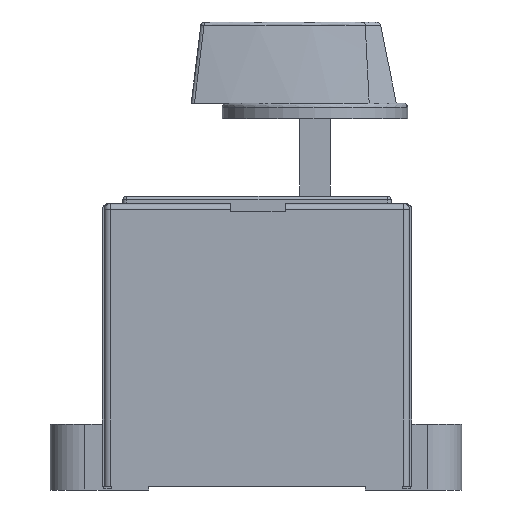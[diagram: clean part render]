
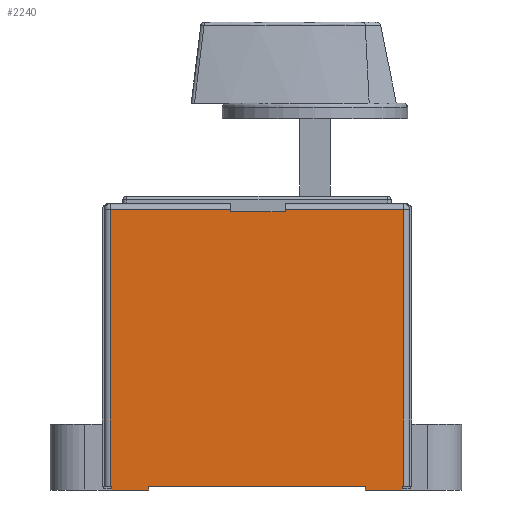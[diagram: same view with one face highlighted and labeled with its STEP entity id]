
A CAD part, left-side view. The second image highlights one B-rep face of the part: STEP entity #2240.
In plain terms, the highlighted planar face has unit normal (-1, 0, 0).
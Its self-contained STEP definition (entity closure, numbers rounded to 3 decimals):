
#252=PLANE('',#7554);
#691=LINE('',#10630,#1409);
#740=LINE('',#10747,#1458);
#742=LINE('',#10753,#1460);
#821=LINE('',#11102,#1539);
#838=LINE('',#11189,#1556);
#882=LINE('',#11303,#1600);
#887=LINE('',#11315,#1605);
#889=LINE('',#11318,#1607);
#895=LINE('',#11331,#1613);
#1063=LINE('',#11672,#1781);
#1069=LINE('',#11683,#1787);
#1070=LINE('',#11687,#1788);
#1071=LINE('',#11689,#1789);
#1072=LINE('',#11691,#1790);
#1073=LINE('',#11692,#1791);
#1074=LINE('',#11693,#1792);
#1409=VECTOR('',#8400,1.);
#1458=VECTOR('',#8485,1.);
#1460=VECTOR('',#8491,1.);
#1539=VECTOR('',#8808,1.);
#1556=VECTOR('',#8925,1.);
#1600=VECTOR('',#9043,1.);
#1605=VECTOR('',#9050,1.);
#1607=VECTOR('',#9054,1.);
#1613=VECTOR('',#9062,1.);
#1781=VECTOR('',#9360,1.);
#1787=VECTOR('',#9372,1.);
#1788=VECTOR('',#9377,1.);
#1789=VECTOR('',#9378,1.);
#1790=VECTOR('',#9379,1.);
#1791=VECTOR('',#9380,1.);
#1792=VECTOR('',#9381,1.);
#2240=ADVANCED_FACE('',(#2607),#252,.F.);
#2607=FACE_OUTER_BOUND('',#3034,.T.);
#3034=EDGE_LOOP('',(#4611,#4612,#4613,#4614,#4615,#4616,#4617,#4618,#4619,
#4620,#4621,#4622,#4623,#4624,#4625,#4626));
#4611=ORIENTED_EDGE('',*,*,#6630,.F.);
#4612=ORIENTED_EDGE('',*,*,#6374,.T.);
#4613=ORIENTED_EDGE('',*,*,#6176,.T.);
#4614=ORIENTED_EDGE('',*,*,#6120,.F.);
#4615=ORIENTED_EDGE('',*,*,#6179,.T.);
#4616=ORIENTED_EDGE('',*,*,#6331,.T.);
#4617=ORIENTED_EDGE('',*,*,#6632,.T.);
#4618=ORIENTED_EDGE('',*,*,#6633,.T.);
#4619=ORIENTED_EDGE('',*,*,#6634,.F.);
#4620=ORIENTED_EDGE('',*,*,#6430,.F.);
#4621=ORIENTED_EDGE('',*,*,#6435,.T.);
#4622=ORIENTED_EDGE('',*,*,#6635,.T.);
#4623=ORIENTED_EDGE('',*,*,#6443,.F.);
#4624=ORIENTED_EDGE('',*,*,#6437,.F.);
#4625=ORIENTED_EDGE('',*,*,#6624,.T.);
#4626=ORIENTED_EDGE('',*,*,#6636,.T.);
#5377=VERTEX_POINT('',#10629);
#5378=VERTEX_POINT('',#10631);
#5424=VERTEX_POINT('',#10748);
#5426=VERTEX_POINT('',#10754);
#5533=VERTEX_POINT('',#11097);
#5534=VERTEX_POINT('',#11101);
#5588=VERTEX_POINT('',#11304);
#5589=VERTEX_POINT('',#11305);
#5593=VERTEX_POINT('',#11314);
#5594=VERTEX_POINT('',#11319);
#5595=VERTEX_POINT('',#11320);
#5598=VERTEX_POINT('',#11328);
#5707=VERTEX_POINT('',#11671);
#5710=VERTEX_POINT('',#11684);
#5711=VERTEX_POINT('',#11688);
#5712=VERTEX_POINT('',#11690);
#6120=EDGE_CURVE('',#5377,#5378,#691,.T.);
#6176=EDGE_CURVE('',#5424,#5378,#740,.T.);
#6179=EDGE_CURVE('',#5377,#5426,#742,.T.);
#6331=EDGE_CURVE('',#5426,#5534,#821,.T.);
#6374=EDGE_CURVE('',#5533,#5424,#838,.T.);
#6430=EDGE_CURVE('',#5588,#5589,#882,.T.);
#6435=EDGE_CURVE('',#5588,#5593,#887,.T.);
#6437=EDGE_CURVE('',#5594,#5595,#889,.T.);
#6443=EDGE_CURVE('',#5595,#5598,#895,.T.);
#6624=EDGE_CURVE('',#5594,#5707,#1063,.T.);
#6630=EDGE_CURVE('',#5533,#5710,#1069,.T.);
#6632=EDGE_CURVE('',#5534,#5711,#1070,.T.);
#6633=EDGE_CURVE('',#5711,#5712,#1071,.T.);
#6634=EDGE_CURVE('',#5589,#5712,#1072,.T.);
#6635=EDGE_CURVE('',#5593,#5598,#1073,.T.);
#6636=EDGE_CURVE('',#5707,#5710,#1074,.T.);
#7554=AXIS2_PLACEMENT_3D('',#11694,#9382,#9383);
#8400=DIRECTION('',(0.,-1.,0.));
#8485=DIRECTION('',(0.,0.,-1.));
#8491=DIRECTION('',(0.,0.,1.));
#8808=DIRECTION('',(0.,1.,0.));
#8925=DIRECTION('',(0.,1.,0.));
#9043=DIRECTION('',(0.,1.,0.));
#9050=DIRECTION('',(0.,0.,1.));
#9054=DIRECTION('',(0.,1.,0.));
#9062=DIRECTION('',(0.,0.,1.));
#9360=DIRECTION('',(0.,0.,1.));
#9372=DIRECTION('',(0.,0.,-1.));
#9377=DIRECTION('',(0.,0.,-1.));
#9378=DIRECTION('',(0.,-1.,0.));
#9379=DIRECTION('',(0.,0.,1.));
#9380=DIRECTION('',(0.,-1.,0.));
#9381=DIRECTION('',(0.,-1.,0.));
#9382=DIRECTION('',(1.,0.,0.));
#9383=DIRECTION('',(0.,0.,-1.));
#10629=CARTESIAN_POINT('',(-69.,-17.985,67.));
#10630=CARTESIAN_POINT('',(-69.,12.765,67.));
#10631=CARTESIAN_POINT('',(-69.,-31.985,67.));
#10747=CARTESIAN_POINT('',(-69.,-31.985,69.1));
#10748=CARTESIAN_POINT('',(-69.,-31.985,67.6));
#10753=CARTESIAN_POINT('',(-69.,-17.985,69.1));
#10754=CARTESIAN_POINT('',(-69.,-17.985,67.6));
#11097=CARTESIAN_POINT('',(-69.,-62.735,67.6));
#11101=CARTESIAN_POINT('',(-69.,13.265,67.6));
#11102=CARTESIAN_POINT('',(-69.,13.265,67.6));
#11189=CARTESIAN_POINT('',(-69.,13.265,67.6));
#11303=CARTESIAN_POINT('',(-69.,3.265,-4.9));
#11304=CARTESIAN_POINT('',(-69.,3.265,-4.9));
#11305=CARTESIAN_POINT('',(-69.,12.765,-4.9));
#11314=CARTESIAN_POINT('',(-69.,3.265,-3.9));
#11315=CARTESIAN_POINT('',(-69.,3.265,-5.9));
#11318=CARTESIAN_POINT('',(-69.,-62.235,-4.9));
#11319=CARTESIAN_POINT('',(-69.,-62.235,-4.9));
#11320=CARTESIAN_POINT('',(-69.,-52.735,-4.9));
#11328=CARTESIAN_POINT('',(-69.,-52.735,-3.9));
#11331=CARTESIAN_POINT('',(-69.,-52.735,-5.9));
#11671=CARTESIAN_POINT('',(-69.,-62.235,-3.9));
#11672=CARTESIAN_POINT('',(-69.,-62.235,-5.9));
#11683=CARTESIAN_POINT('',(-69.,-62.735,69.1));
#11684=CARTESIAN_POINT('',(-69.,-62.735,-3.9));
#11687=CARTESIAN_POINT('',(-69.,13.265,69.1));
#11688=CARTESIAN_POINT('',(-69.,13.265,-3.9));
#11689=CARTESIAN_POINT('',(-69.,-62.235,-3.9));
#11690=CARTESIAN_POINT('',(-69.,12.765,-3.9));
#11691=CARTESIAN_POINT('',(-69.,12.765,-5.9));
#11692=CARTESIAN_POINT('',(-69.,-62.235,-3.9));
#11693=CARTESIAN_POINT('',(-69.,-62.235,-3.9));
#11694=CARTESIAN_POINT('',(-69.,-62.235,69.1));
